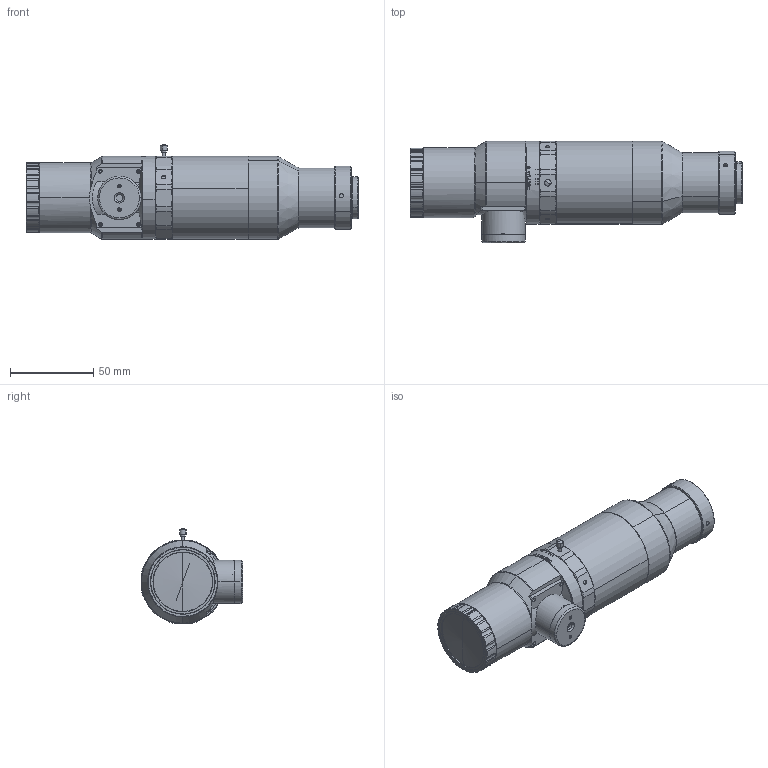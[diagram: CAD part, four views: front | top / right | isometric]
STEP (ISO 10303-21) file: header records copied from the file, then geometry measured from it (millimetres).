
FILE_DESCRIPTION (( 'STEP AP203' ), '1' );
FILE_NAME ('DTCA121-5CV2-G.STEP', '2023-08-13T07:54:27', ( '' ), ( '' ), 'SwSTEP 2.0', 'SolidWorks 2017', '' );
FILE_SCHEMA (( 'CONFIG_CONTROL_DESIGN' ));
Length unit declared in the file: millimetre
Products named in the file (1): DTCA121-5CV2-G
Bounding box: 199.64 x 61.01 x 57.09 mm (x, y, z)
Volume: 325920.4 mm3; surface area: 36026.8 mm2
Topology: 1 solids, 11 shells, 564 faces, 1390 edges, 879 vertices
Faces by surface type: cylinder 200, cone 162, plane 141, bspline 61
Entity records: 20247 total; most frequent: CARTESIAN_POINT 7381, ORIENTED_EDGE 2756, DIRECTION 2564, EDGE_CURVE 1378, AXIS2_PLACEMENT_3D 1057, VERTEX_POINT 879, EDGE_LOOP 611, FACE_OUTER_BOUND 564
